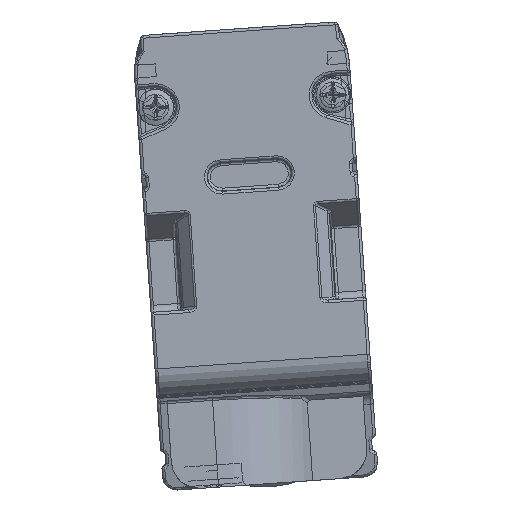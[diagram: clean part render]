
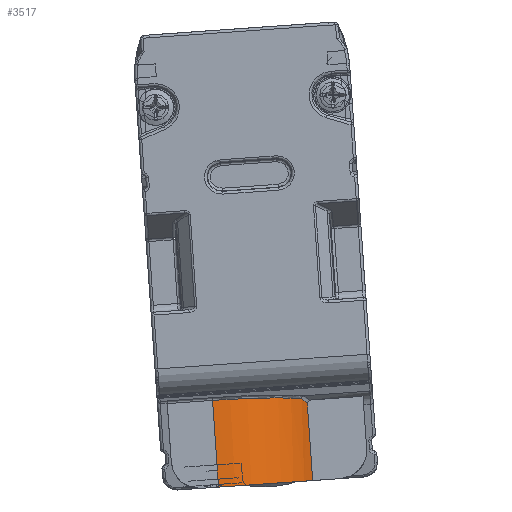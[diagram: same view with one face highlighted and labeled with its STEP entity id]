
A CAD part, front view. The second image highlights one B-rep face of the part: STEP entity #3517.
In plain terms, the highlighted cylindrical face has radius 7.5 mm (diameter 15 mm), a partial arc.
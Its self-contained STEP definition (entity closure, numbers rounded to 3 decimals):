
#257=ELLIPSE('',#20818,7.53,7.5);
#458=B_SPLINE_CURVE_WITH_KNOTS('',3,(#34445,#34446,#34447,#34448,#34449,
#34450,#34451),.UNSPECIFIED.,.F.,.F.,(4,3,4),(0.,0.485,1.),.UNSPECIFIED.);
#1311=CYLINDRICAL_SURFACE('',#20820,7.5);
#2275=CIRCLE('',#20819,7.5);
#3517=ADVANCED_FACE('',(#4706),#1311,.T.);
#4706=FACE_OUTER_BOUND('',#5708,.T.);
#5708=EDGE_LOOP('',(#8630,#8631,#8632,#8633,#8634));
#8630=ORIENTED_EDGE('',*,*,#15017,.T.);
#8631=ORIENTED_EDGE('',*,*,#15018,.T.);
#8632=ORIENTED_EDGE('',*,*,#15019,.T.);
#8633=ORIENTED_EDGE('',*,*,#15020,.T.);
#8634=ORIENTED_EDGE('',*,*,#15021,.F.);
#12287=VERTEX_POINT('',#34443);
#12288=VERTEX_POINT('',#34444);
#12289=VERTEX_POINT('',#34452);
#12290=VERTEX_POINT('',#34454);
#12291=VERTEX_POINT('',#34456);
#15017=EDGE_CURVE('',#12287,#12288,#17376,.T.);
#15018=EDGE_CURVE('',#12288,#12289,#458,.T.);
#15019=EDGE_CURVE('',#12289,#12290,#257,.T.);
#15020=EDGE_CURVE('',#12290,#12291,#17377,.T.);
#15021=EDGE_CURVE('',#12287,#12291,#2275,.T.);
#17376=LINE('',#34442,#18812);
#17377=LINE('',#34455,#18813);
#18812=VECTOR('',#24891,1.);
#18813=VECTOR('',#24894,1.);
#20818=AXIS2_PLACEMENT_3D('',#34453,#24892,#24893);
#20819=AXIS2_PLACEMENT_3D('',#34457,#24895,#24896);
#20820=AXIS2_PLACEMENT_3D('',#34458,#24897,#24898);
#24891=DIRECTION('',(-0.07,0.,0.998));
#24892=DIRECTION('',(0.069,-0.089,-0.994));
#24893=DIRECTION('',(0.006,0.996,-0.089));
#24894=DIRECTION('',(0.07,0.,-0.998));
#24895=DIRECTION('',(0.07,0.,-0.998));
#24896=DIRECTION('',(0.998,0.,0.07));
#24897=DIRECTION('',(0.07,0.,-0.998));
#24898=DIRECTION('',(0.,-1.,0.));
#34442=CARTESIAN_POINT('',(-40.701,-1070.597,14.888));
#34443=CARTESIAN_POINT('',(-40.701,-1070.597,14.888));
#34444=CARTESIAN_POINT('',(-41.088,-1070.597,20.435));
#34445=CARTESIAN_POINT('',(-41.088,-1070.597,20.435));
#34446=CARTESIAN_POINT('',(-41.139,-1070.686,20.528));
#34447=CARTESIAN_POINT('',(-41.198,-1070.793,20.603));
#34448=CARTESIAN_POINT('',(-41.263,-1070.905,20.654));
#34449=CARTESIAN_POINT('',(-41.332,-1071.024,20.708));
#34450=CARTESIAN_POINT('',(-41.408,-1071.152,20.738));
#34451=CARTESIAN_POINT('',(-41.487,-1071.278,20.743));
#34452=CARTESIAN_POINT('',(-41.487,-1071.278,20.743));
#34453=CARTESIAN_POINT('',(-47.816,-1067.318,19.944));
#34454=CARTESIAN_POINT('',(-47.863,-1074.818,20.616));
#34455=CARTESIAN_POINT('',(-47.667,-1074.818,17.815));
#34456=CARTESIAN_POINT('',(-47.43,-1074.818,14.418));
#34457=CARTESIAN_POINT('',(-47.43,-1067.318,14.418));
#34458=CARTESIAN_POINT('',(-52.434,-1067.318,85.982));
